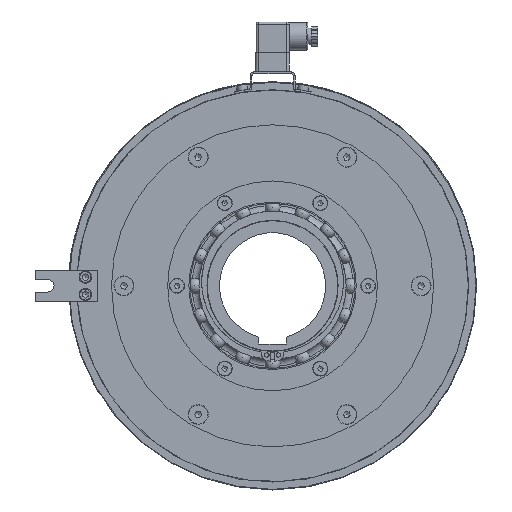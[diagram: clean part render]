
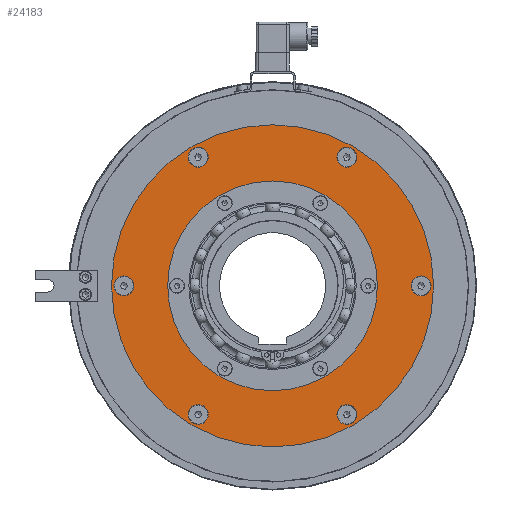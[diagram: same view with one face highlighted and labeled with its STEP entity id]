
A CAD part, left-side view. The second image highlights one B-rep face of the part: STEP entity #24183.
In plain terms, the highlighted planar face has unit normal (-1, 0, 0).
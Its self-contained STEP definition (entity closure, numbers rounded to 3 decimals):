
#712=PLANE('',#25849);
#1107=FACE_BOUND('',#3610,.T.);
#1108=FACE_BOUND('',#3611,.T.);
#1109=FACE_BOUND('',#3612,.T.);
#1110=FACE_BOUND('',#3613,.T.);
#1111=FACE_BOUND('',#3614,.T.);
#1112=FACE_BOUND('',#3615,.T.);
#1113=FACE_BOUND('',#3616,.T.);
#2307=FACE_OUTER_BOUND('',#3609,.T.);
#3609=EDGE_LOOP('',(#17424,#17425));
#3610=EDGE_LOOP('',(#17426,#17427));
#3611=EDGE_LOOP('',(#17428,#17429));
#3612=EDGE_LOOP('',(#17430,#17431));
#3613=EDGE_LOOP('',(#17432,#17433));
#3614=EDGE_LOOP('',(#17434,#17435));
#3615=EDGE_LOOP('',(#17436,#17437));
#3616=EDGE_LOOP('',(#17438,#17439));
#5265=CIRCLE('',#25832,8.);
#5266=CIRCLE('',#25833,8.);
#5267=CIRCLE('',#25835,8.);
#5268=CIRCLE('',#25836,8.);
#5269=CIRCLE('',#25838,8.);
#5270=CIRCLE('',#25839,8.);
#5271=CIRCLE('',#25841,8.);
#5272=CIRCLE('',#25842,8.);
#5273=CIRCLE('',#25844,8.);
#5274=CIRCLE('',#25845,8.);
#5275=CIRCLE('',#25847,8.);
#5276=CIRCLE('',#25848,8.);
#5277=CIRCLE('',#25850,129.);
#5278=CIRCLE('',#25851,129.);
#5279=CIRCLE('',#25852,84.);
#5280=CIRCLE('',#25853,84.);
#9751=VERTEX_POINT('',#42170);
#9752=VERTEX_POINT('',#42171);
#9753=VERTEX_POINT('',#42176);
#9754=VERTEX_POINT('',#42177);
#9755=VERTEX_POINT('',#42182);
#9756=VERTEX_POINT('',#42183);
#9757=VERTEX_POINT('',#42188);
#9758=VERTEX_POINT('',#42189);
#9759=VERTEX_POINT('',#42194);
#9760=VERTEX_POINT('',#42195);
#9761=VERTEX_POINT('',#42200);
#9762=VERTEX_POINT('',#42201);
#9763=VERTEX_POINT('',#42206);
#9764=VERTEX_POINT('',#42207);
#9765=VERTEX_POINT('',#42210);
#9766=VERTEX_POINT('',#42211);
#12712=EDGE_CURVE('',#9751,#9752,#5265,.T.);
#12713=EDGE_CURVE('',#9752,#9751,#5266,.T.);
#12715=EDGE_CURVE('',#9753,#9754,#5267,.T.);
#12716=EDGE_CURVE('',#9754,#9753,#5268,.T.);
#12718=EDGE_CURVE('',#9755,#9756,#5269,.T.);
#12719=EDGE_CURVE('',#9756,#9755,#5270,.T.);
#12721=EDGE_CURVE('',#9757,#9758,#5271,.T.);
#12722=EDGE_CURVE('',#9758,#9757,#5272,.T.);
#12724=EDGE_CURVE('',#9759,#9760,#5273,.T.);
#12725=EDGE_CURVE('',#9760,#9759,#5274,.T.);
#12727=EDGE_CURVE('',#9761,#9762,#5275,.T.);
#12728=EDGE_CURVE('',#9762,#9761,#5276,.T.);
#12730=EDGE_CURVE('',#9763,#9764,#5277,.T.);
#12731=EDGE_CURVE('',#9764,#9763,#5278,.T.);
#12732=EDGE_CURVE('',#9765,#9766,#5279,.T.);
#12733=EDGE_CURVE('',#9766,#9765,#5280,.T.);
#17424=ORIENTED_EDGE('',*,*,#12730,.F.);
#17425=ORIENTED_EDGE('',*,*,#12731,.F.);
#17426=ORIENTED_EDGE('',*,*,#12712,.T.);
#17427=ORIENTED_EDGE('',*,*,#12713,.T.);
#17428=ORIENTED_EDGE('',*,*,#12715,.T.);
#17429=ORIENTED_EDGE('',*,*,#12716,.T.);
#17430=ORIENTED_EDGE('',*,*,#12718,.T.);
#17431=ORIENTED_EDGE('',*,*,#12719,.T.);
#17432=ORIENTED_EDGE('',*,*,#12721,.T.);
#17433=ORIENTED_EDGE('',*,*,#12722,.T.);
#17434=ORIENTED_EDGE('',*,*,#12724,.T.);
#17435=ORIENTED_EDGE('',*,*,#12725,.T.);
#17436=ORIENTED_EDGE('',*,*,#12727,.T.);
#17437=ORIENTED_EDGE('',*,*,#12728,.T.);
#17438=ORIENTED_EDGE('',*,*,#12732,.T.);
#17439=ORIENTED_EDGE('',*,*,#12733,.T.);
#24183=ADVANCED_FACE('',(#2307,#1107,#1108,#1109,#1110,#1111,#1112,#1113),
#712,.T.);
#25832=AXIS2_PLACEMENT_3D('',#42172,#29856,#29857);
#25833=AXIS2_PLACEMENT_3D('',#42173,#29858,#29859);
#25835=AXIS2_PLACEMENT_3D('',#42178,#29863,#29864);
#25836=AXIS2_PLACEMENT_3D('',#42179,#29865,#29866);
#25838=AXIS2_PLACEMENT_3D('',#42184,#29870,#29871);
#25839=AXIS2_PLACEMENT_3D('',#42185,#29872,#29873);
#25841=AXIS2_PLACEMENT_3D('',#42190,#29877,#29878);
#25842=AXIS2_PLACEMENT_3D('',#42191,#29879,#29880);
#25844=AXIS2_PLACEMENT_3D('',#42196,#29884,#29885);
#25845=AXIS2_PLACEMENT_3D('',#42197,#29886,#29887);
#25847=AXIS2_PLACEMENT_3D('',#42202,#29891,#29892);
#25848=AXIS2_PLACEMENT_3D('',#42203,#29893,#29894);
#25849=AXIS2_PLACEMENT_3D('',#42205,#29896,#29897);
#25850=AXIS2_PLACEMENT_3D('',#42208,#29898,#29899);
#25851=AXIS2_PLACEMENT_3D('',#42209,#29900,#29901);
#25852=AXIS2_PLACEMENT_3D('',#42212,#29902,#29903);
#25853=AXIS2_PLACEMENT_3D('',#42213,#29904,#29905);
#29856=DIRECTION('center_axis',(1.,0.,0.));
#29857=DIRECTION('ref_axis',(0.,0.,
1.));
#29858=DIRECTION('center_axis',(1.,0.,0.));
#29859=DIRECTION('ref_axis',(0.,0.,
1.));
#29863=DIRECTION('center_axis',(1.,0.,0.));
#29864=DIRECTION('ref_axis',(0.,0.,
1.));
#29865=DIRECTION('center_axis',(1.,0.,0.));
#29866=DIRECTION('ref_axis',(0.,0.,
1.));
#29870=DIRECTION('center_axis',(1.,0.,0.));
#29871=DIRECTION('ref_axis',(0.,0.,
1.));
#29872=DIRECTION('center_axis',(1.,0.,0.));
#29873=DIRECTION('ref_axis',(0.,0.,
1.));
#29877=DIRECTION('center_axis',(1.,0.,0.));
#29878=DIRECTION('ref_axis',(0.,0.,
1.));
#29879=DIRECTION('center_axis',(1.,0.,0.));
#29880=DIRECTION('ref_axis',(0.,0.,
1.));
#29884=DIRECTION('center_axis',(1.,0.,0.));
#29885=DIRECTION('ref_axis',(0.,0.,
1.));
#29886=DIRECTION('center_axis',(1.,0.,0.));
#29887=DIRECTION('ref_axis',(0.,0.,
1.));
#29891=DIRECTION('center_axis',(1.,0.,0.));
#29892=DIRECTION('ref_axis',(0.,0.,
1.));
#29893=DIRECTION('center_axis',(1.,0.,0.));
#29894=DIRECTION('ref_axis',(0.,0.,
1.));
#29896=DIRECTION('center_axis',(-1.,0.,0.));
#29897=DIRECTION('ref_axis',(0.,0.,
1.));
#29898=DIRECTION('center_axis',(1.,0.,0.));
#29899=DIRECTION('ref_axis',(0.,1.,0.));
#29900=DIRECTION('center_axis',(1.,0.,0.));
#29901=DIRECTION('ref_axis',(0.,1.,0.));
#29902=DIRECTION('center_axis',(1.,0.,0.));
#29903=DIRECTION('ref_axis',(0.,1.,0.));
#29904=DIRECTION('center_axis',(1.,0.,0.));
#29905=DIRECTION('ref_axis',(0.,1.,0.));
#42170=CARTESIAN_POINT('',(-31.,59.5,111.057));
#42171=CARTESIAN_POINT('',(-31.,59.5,95.057));
#42172=CARTESIAN_POINT('Origin',(-31.,59.5,103.057));
#42173=CARTESIAN_POINT('Origin',(-31.,59.5,103.057));
#42176=CARTESIAN_POINT('',(-31.,-59.5,111.057));
#42177=CARTESIAN_POINT('',(-31.,-59.5,95.057));
#42178=CARTESIAN_POINT('Origin',(-31.,-59.5,103.057));
#42179=CARTESIAN_POINT('Origin',(-31.,-59.5,103.057));
#42182=CARTESIAN_POINT('',(-31.,-119.,8.));
#42183=CARTESIAN_POINT('',(-31.,-119.,-8.));
#42184=CARTESIAN_POINT('Origin',(-31.,-119.,0.));
#42185=CARTESIAN_POINT('Origin',(-31.,-119.,0.));
#42188=CARTESIAN_POINT('',(-31.,-59.5,-95.057));
#42189=CARTESIAN_POINT('',(-31.,-59.5,-111.057));
#42190=CARTESIAN_POINT('Origin',(-31.,-59.5,-103.057));
#42191=CARTESIAN_POINT('Origin',(-31.,-59.5,-103.057));
#42194=CARTESIAN_POINT('',(-31.,59.5,-95.057));
#42195=CARTESIAN_POINT('',(-31.,59.5,-111.057));
#42196=CARTESIAN_POINT('Origin',(-31.,59.5,-103.057));
#42197=CARTESIAN_POINT('Origin',(-31.,59.5,-103.057));
#42200=CARTESIAN_POINT('',(-31.,119.,8.));
#42201=CARTESIAN_POINT('',(-31.,119.,-8.));
#42202=CARTESIAN_POINT('Origin',(-31.,119.,0.));
#42203=CARTESIAN_POINT('Origin',(-31.,119.,0.));
#42205=CARTESIAN_POINT('Origin',(-31.,106.5,0.));
#42206=CARTESIAN_POINT('',(-31.,129.,0.));
#42207=CARTESIAN_POINT('',(-31.,-129.,0.));
#42208=CARTESIAN_POINT('Origin',(-31.,0.,0.));
#42209=CARTESIAN_POINT('Origin',(-31.,0.,0.));
#42210=CARTESIAN_POINT('',(-31.,84.,0.));
#42211=CARTESIAN_POINT('',(-31.,-84.,0.));
#42212=CARTESIAN_POINT('Origin',(-31.,0.,0.));
#42213=CARTESIAN_POINT('Origin',(-31.,0.,0.));
